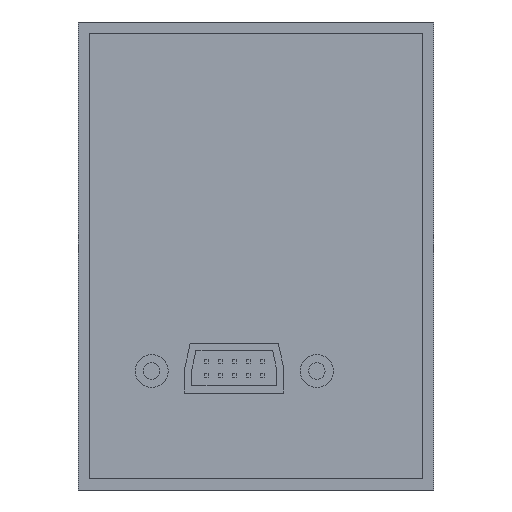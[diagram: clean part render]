
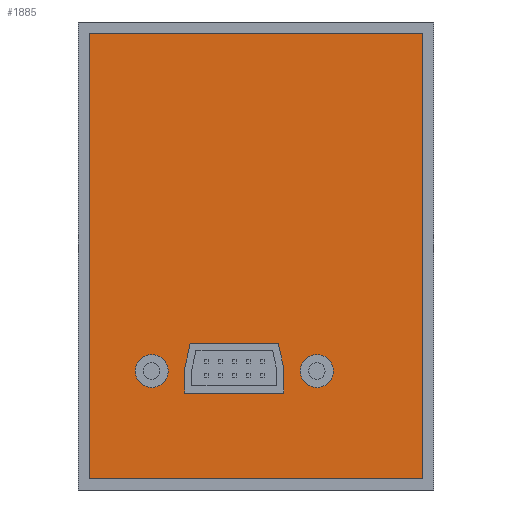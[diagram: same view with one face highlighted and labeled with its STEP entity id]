
A CAD part, front view. The second image highlights one B-rep face of the part: STEP entity #1885.
In plain terms, the highlighted planar face has unit normal (0, -1, 0).
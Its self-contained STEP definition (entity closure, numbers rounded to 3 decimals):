
#49 = AXIS2_PLACEMENT_3D ( 'NONE', #2443, #861, #2695 ) ;
#54 = VERTEX_POINT ( 'NONE', #3173 ) ;
#65 = ORIENTED_EDGE ( 'NONE', *, *, #3090, .F. ) ;
#108 = DIRECTION ( 'NONE',  ( 0., 0., -1. ) ) ;
#117 = DIRECTION ( 'NONE',  ( 1., 0., 0. ) ) ;
#131 = PLANE ( 'NONE',  #2685 ) ;
#143 = CARTESIAN_POINT ( 'NONE',  ( -18.95, 0., -63.4 ) ) ;
#177 = VERTEX_POINT ( 'NONE', #848 ) ;
#190 = EDGE_CURVE ( 'NONE', #1597, #1354, #1705, .T. ) ;
#211 = CARTESIAN_POINT ( 'NONE',  ( 5.052, 0., -67.4 ) ) ;
#219 = CARTESIAN_POINT ( 'NONE',  ( -30.25, 0., -2. ) ) ;
#238 = EDGE_LOOP ( 'NONE', ( #3285, #2442, #65, #318, #3191, #1958 ) ) ;
#316 = CARTESIAN_POINT ( 'NONE',  ( -11.948, 0., -58.397 ) ) ;
#318 = ORIENTED_EDGE ( 'NONE', *, *, #1460, .F. ) ;
#359 = CARTESIAN_POINT ( 'NONE',  ( 4.052, 0., -58.397 ) ) ;
#361 = VECTOR ( 'NONE', #2264, 1000. ) ;
#382 = VECTOR ( 'NONE', #897, 1000. ) ;
#388 = DIRECTION ( 'NONE',  ( 0., 0., -1. ) ) ;
#398 = DIRECTION ( 'NONE',  ( 0., 0., -1. ) ) ;
#430 = CARTESIAN_POINT ( 'NONE',  ( -12.948, 0., -62.9 ) ) ;
#436 = ORIENTED_EDGE ( 'NONE', *, *, #2847, .F. ) ;
#452 = CIRCLE ( 'NONE', #2366, 3. ) ;
#459 = LINE ( 'NONE', #316, #590 ) ;
#478 = VERTEX_POINT ( 'NONE', #1610 ) ;
#481 = CARTESIAN_POINT ( 'NONE',  ( -30.25, 0., -83. ) ) ;
#496 = EDGE_CURVE ( 'NONE', #778, #478, #2524, .T. ) ;
#521 = CARTESIAN_POINT ( 'NONE',  ( -30.25, 0., -2. ) ) ;
#566 = EDGE_CURVE ( 'NONE', #2732, #954, #644, .T. ) ;
#587 = EDGE_CURVE ( 'NONE', #2582, #3021, #2127, .T. ) ;
#590 = VECTOR ( 'NONE', #2119, 1000. ) ;
#644 = CIRCLE ( 'NONE', #2009, 3. ) ;
#680 = CARTESIAN_POINT ( 'NONE',  ( -18.95, 0., -60.4 ) ) ;
#689 = CARTESIAN_POINT ( 'NONE',  ( -12.948, 0., -67.4 ) ) ;
#714 = CARTESIAN_POINT ( 'NONE',  ( 11.05, 0., -63.4 ) ) ;
#728 = ORIENTED_EDGE ( 'NONE', *, *, #2121, .F. ) ;
#730 = EDGE_LOOP ( 'NONE', ( #728, #2527, #3009, #3051 ) ) ;
#778 = VERTEX_POINT ( 'NONE', #2199 ) ;
#830 = EDGE_LOOP ( 'NONE', ( #436, #2748 ) ) ;
#838 = CARTESIAN_POINT ( 'NONE',  ( 11.05, 0., -60.4 ) ) ;
#848 = CARTESIAN_POINT ( 'NONE',  ( 11.05, 0., -66.4 ) ) ;
#861 = DIRECTION ( 'NONE',  ( 0., -1., 0. ) ) ;
#863 = EDGE_LOOP ( 'NONE', ( #2891, #3341 ) ) ;
#897 = DIRECTION ( 'NONE',  ( 0., 0., 1. ) ) ;
#954 = VERTEX_POINT ( 'NONE', #680 ) ;
#971 = DIRECTION ( 'NONE',  ( 0., 0., -1. ) ) ;
#1002 = LINE ( 'NONE', #1172, #1471 ) ;
#1042 = CARTESIAN_POINT ( 'NONE',  ( 5.052, 0., -67.4 ) ) ;
#1066 = VERTEX_POINT ( 'NONE', #2801 ) ;
#1089 = DIRECTION ( 'NONE',  ( 0., 0., 1. ) ) ;
#1172 = CARTESIAN_POINT ( 'NONE',  ( 5.052, 0., -62.9 ) ) ;
#1232 = EDGE_CURVE ( 'NONE', #954, #2732, #452, .T. ) ;
#1233 = VERTEX_POINT ( 'NONE', #359 ) ;
#1254 = EDGE_CURVE ( 'NONE', #177, #2565, #2859, .T. ) ;
#1280 = DIRECTION ( 'NONE',  ( -1., 0., 0. ) ) ;
#1325 = DIRECTION ( 'NONE',  ( 0., 0., 1. ) ) ;
#1346 = VECTOR ( 'NONE', #117, 1000. ) ;
#1353 = EDGE_CURVE ( 'NONE', #1066, #1233, #1002, .T. ) ;
#1354 = VERTEX_POINT ( 'NONE', #2463 ) ;
#1418 = CARTESIAN_POINT ( 'NONE',  ( -30.25, 0., -85. ) ) ;
#1460 = EDGE_CURVE ( 'NONE', #1354, #2850, #2793, .T. ) ;
#1471 = VECTOR ( 'NONE', #3259, 1000. ) ;
#1597 = VERTEX_POINT ( 'NONE', #430 ) ;
#1610 = CARTESIAN_POINT ( 'NONE',  ( 30.25, 0., -2. ) ) ;
#1622 = VECTOR ( 'NONE', #1089, 1000. ) ;
#1637 = DIRECTION ( 'NONE',  ( 0., -1., 0. ) ) ;
#1638 = CARTESIAN_POINT ( 'NONE',  ( -30.25, 0., -83. ) ) ;
#1705 = LINE ( 'NONE', #2918, #361 ) ;
#1710 = CARTESIAN_POINT ( 'NONE',  ( -18.95, 0., -66.4 ) ) ;
#1843 = VECTOR ( 'NONE', #2547, 1000. ) ;
#1861 = CARTESIAN_POINT ( 'NONE',  ( 30.25, 0., -85. ) ) ;
#1866 = LINE ( 'NONE', #481, #1843 ) ;
#1885 = ADVANCED_FACE ( 'NONE', ( #2611, #2645, #2639, #2608 ), #131, .T. ) ;
#1904 = LINE ( 'NONE', #219, #1926 ) ;
#1917 = DIRECTION ( 'NONE',  ( 0., -1., 0. ) ) ;
#1923 = DIRECTION ( 'NONE',  ( 0., -1., 0. ) ) ;
#1926 = VECTOR ( 'NONE', #2004, 1000. ) ;
#1958 = ORIENTED_EDGE ( 'NONE', *, *, #2419, .F. ) ;
#2004 = DIRECTION ( 'NONE',  ( 1., 0., 0. ) ) ;
#2009 = AXIS2_PLACEMENT_3D ( 'NONE', #143, #1923, #398 ) ;
#2052 = EDGE_CURVE ( 'NONE', #3021, #478, #1904, .T. ) ;
#2072 = CIRCLE ( 'NONE', #2653, 3. ) ;
#2102 = LINE ( 'NONE', #1042, #3309 ) ;
#2119 = DIRECTION ( 'NONE',  ( -0.217, 0., -0.976 ) ) ;
#2121 = EDGE_CURVE ( 'NONE', #778, #2582, #1866, .T. ) ;
#2127 = LINE ( 'NONE', #2216, #382 ) ;
#2199 = CARTESIAN_POINT ( 'NONE',  ( 30.25, 0., -83. ) ) ;
#2216 = CARTESIAN_POINT ( 'NONE',  ( -30.25, 0., -85. ) ) ;
#2264 = DIRECTION ( 'NONE',  ( 0., 0., -1. ) ) ;
#2344 = LINE ( 'NONE', #3383, #2467 ) ;
#2366 = AXIS2_PLACEMENT_3D ( 'NONE', #3220, #1637, #108 ) ;
#2419 = EDGE_CURVE ( 'NONE', #54, #1597, #459, .T. ) ;
#2442 = ORIENTED_EDGE ( 'NONE', *, *, #1353, .F. ) ;
#2443 = CARTESIAN_POINT ( 'NONE',  ( 11.05, 0., -63.4 ) ) ;
#2463 = CARTESIAN_POINT ( 'NONE',  ( -12.948, 0., -67.4 ) ) ;
#2467 = VECTOR ( 'NONE', #1280, 1000. ) ;
#2524 = LINE ( 'NONE', #1861, #1622 ) ;
#2527 = ORIENTED_EDGE ( 'NONE', *, *, #496, .T. ) ;
#2533 = DIRECTION ( 'NONE',  ( 0., -1., 0. ) ) ;
#2547 = DIRECTION ( 'NONE',  ( -1., 0., 0. ) ) ;
#2565 = VERTEX_POINT ( 'NONE', #838 ) ;
#2582 = VERTEX_POINT ( 'NONE', #1638 ) ;
#2608 = FACE_BOUND ( 'NONE', #238, .T. ) ;
#2611 = FACE_OUTER_BOUND ( 'NONE', #730, .T. ) ;
#2639 = FACE_BOUND ( 'NONE', #863, .T. ) ;
#2645 = FACE_BOUND ( 'NONE', #830, .T. ) ;
#2653 = AXIS2_PLACEMENT_3D ( 'NONE', #714, #2533, #971 ) ;
#2685 = AXIS2_PLACEMENT_3D ( 'NONE', #1418, #1917, #388 ) ;
#2695 = DIRECTION ( 'NONE',  ( 0., 0., -1. ) ) ;
#2732 = VERTEX_POINT ( 'NONE', #1710 ) ;
#2748 = ORIENTED_EDGE ( 'NONE', *, *, #1254, .F. ) ;
#2793 = LINE ( 'NONE', #689, #1346 ) ;
#2801 = CARTESIAN_POINT ( 'NONE',  ( 5.052, 0., -62.9 ) ) ;
#2847 = EDGE_CURVE ( 'NONE', #2565, #177, #2072, .T. ) ;
#2850 = VERTEX_POINT ( 'NONE', #211 ) ;
#2859 = CIRCLE ( 'NONE', #49, 3. ) ;
#2891 = ORIENTED_EDGE ( 'NONE', *, *, #1232, .F. ) ;
#2918 = CARTESIAN_POINT ( 'NONE',  ( -12.948, 0., -62.9 ) ) ;
#2952 = EDGE_CURVE ( 'NONE', #1233, #54, #2344, .T. ) ;
#3009 = ORIENTED_EDGE ( 'NONE', *, *, #2052, .F. ) ;
#3021 = VERTEX_POINT ( 'NONE', #521 ) ;
#3051 = ORIENTED_EDGE ( 'NONE', *, *, #587, .F. ) ;
#3090 = EDGE_CURVE ( 'NONE', #2850, #1066, #2102, .T. ) ;
#3173 = CARTESIAN_POINT ( 'NONE',  ( -11.948, 0., -58.397 ) ) ;
#3191 = ORIENTED_EDGE ( 'NONE', *, *, #190, .F. ) ;
#3220 = CARTESIAN_POINT ( 'NONE',  ( -18.95, 0., -63.4 ) ) ;
#3259 = DIRECTION ( 'NONE',  ( -0.217, 0., 0.976 ) ) ;
#3285 = ORIENTED_EDGE ( 'NONE', *, *, #2952, .F. ) ;
#3309 = VECTOR ( 'NONE', #1325, 1000. ) ;
#3341 = ORIENTED_EDGE ( 'NONE', *, *, #566, .F. ) ;
#3383 = CARTESIAN_POINT ( 'NONE',  ( -11.948, 0., -58.397 ) ) ;
